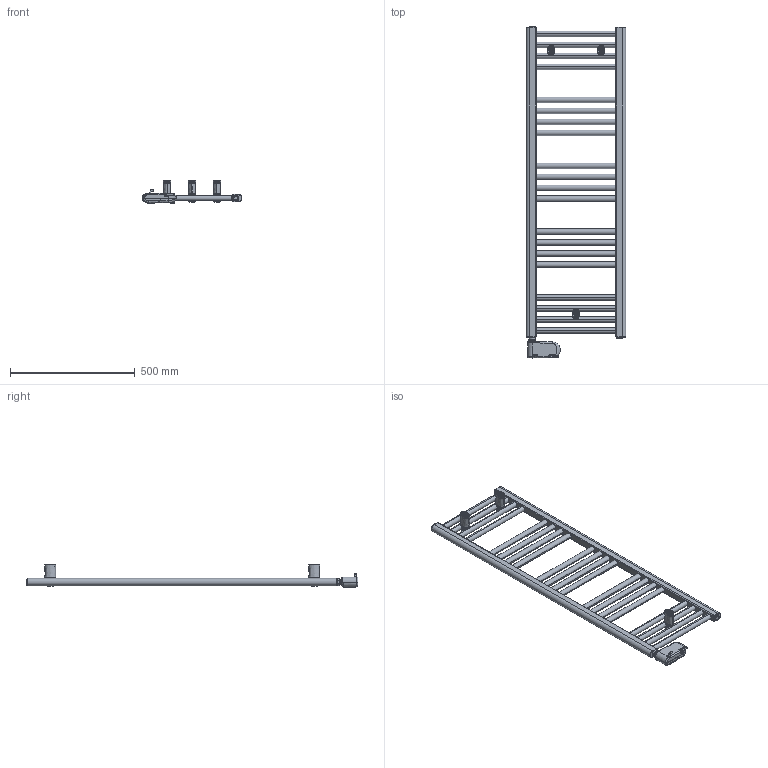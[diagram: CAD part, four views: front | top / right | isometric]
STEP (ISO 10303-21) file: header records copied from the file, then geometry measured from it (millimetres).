
FILE_DESCRIPTION((''),'2;1');
FILE_NAME('3581656100012_3D_SITO_ASM','2026-01-13T15:29:03',('PC132'),(''),'CREO PARAMETRIC BY PTC INC, 2025323','CREO PARAMETRIC BY PTC INC, 2025323','');
FILE_SCHEMA(('AUTOMOTIVE_DESIGN { 1 0 10303 214 1 1 1 1 }'));
Length unit declared in the file: millimetre
Products named in the file (17): 2551650500205_3D_SITO; BICCHIERE_PARETE; PERNO_SCORROVOLE; DADO_QUADRO_M5_X_GIUNTO; DADO_M6_X_GIUNTO; PERNO_SCORREVOLE_ASM; BASETTA_ANTERIORE; 1527181430001; VITE_CR_M5_16; VITE_CR_SV_M6_35; 1102001310058_ASM; 1010181240001; 1117000001010; 1035270000037_FRONT; 1035270000037_BACK; 1035270000060_ASM; 3581656100012_3D_SITO_ASM
Assembly tree (19 placements, depth 4):
  3581656100012_3D_SITO_ASM
    2551650500205_3D_SITO
    1102001310058_ASM  x3
      BICCHIERE_PARETE
      PERNO_SCORREVOLE_ASM
        PERNO_SCORROVOLE
        DADO_QUADRO_M5_X_GIUNTO
        DADO_M6_X_GIUNTO
      BASETTA_ANTERIORE
      1527181430001
      VITE_CR_M5_16
      VITE_CR_SV_M6_35
    1010181240001  x2
    1117000001010
    1035270000060_ASM
      1035270000037_FRONT
      1035270000037_BACK
Bounding box: 400 x 1328.4 x 88.65 mm (x, y, z)
Volume: 5622556.5 mm3; surface area: 910101.1 mm2
Topology: 32 solids, 45 shells, 5045 faces, 11080 edges, 6153 vertices
Faces by surface type: cylinder 1944, plane 895, torus 766, sphere 641, bspline 609, cone 136, extrusion 54
Entity records: 111202 total; most frequent: CARTESIAN_POINT 41939, DIRECTION 10160, ORIENTED_EDGE 8582, EDGE_CURVE 4304, PRESENTATION_STYLE_ASSIGNMENT 4250, STYLED_ITEM 4246, CURVE_STYLE 4229, AXIS2_PLACEMENT_3D 4215
